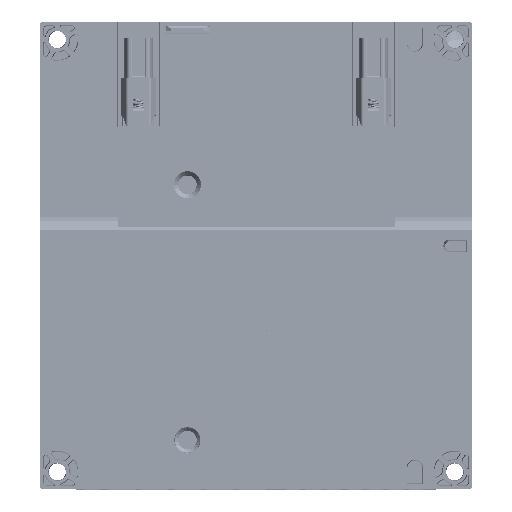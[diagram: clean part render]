
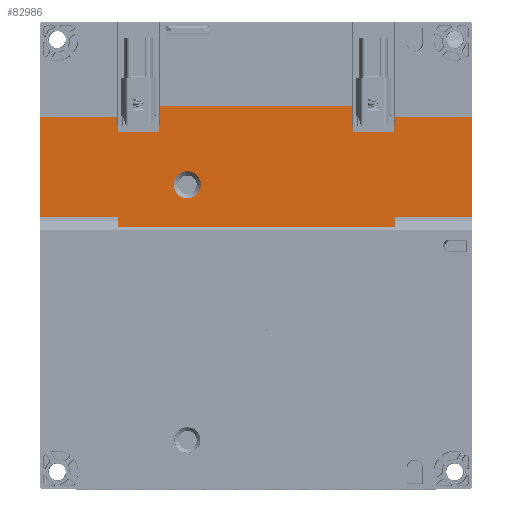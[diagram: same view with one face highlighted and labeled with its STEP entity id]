
A CAD part, top view. The second image highlights one B-rep face of the part: STEP entity #82986.
In plain terms, the highlighted planar face has unit normal (0, 0, 1).
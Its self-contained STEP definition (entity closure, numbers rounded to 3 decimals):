
#9819=CARTESIAN_POINT('',(-21.5,22.25,105.9));
#9820=DIRECTION('',(0.,0.,-1.));
#9821=DIRECTION('',(1.,0.,0.));
#9822=AXIS2_PLACEMENT_3D('',#9819,#9820,#9821);
#9827=CARTESIAN_POINT('',(-21.5,22.25,105.9));
#9828=DIRECTION('',(0.,0.,-1.));
#9829=DIRECTION('',(-1.,0.,0.));
#9830=AXIS2_PLACEMENT_3D('',#9827,#9828,#9829);
#9835=DIRECTION('',(1.,0.,0.));
#9836=VECTOR('',#9835,24.336);
#9837=CARTESIAN_POINT('',(-67.75,46.65,105.9));
#9838=LINE('',#9837,#9836);
#9842=DIRECTION('',(0.001,-1.,0.));
#9843=VECTOR('',#9842,5.9);
#9844=CARTESIAN_POINT('',(-43.414,46.65,105.9));
#9845=LINE('',#9844,#9843);
#9849=CARTESIAN_POINT('',(-43.407,40.75,105.9));
#9850=CARTESIAN_POINT('',(-43.407,40.083,105.9));
#9851=CARTESIAN_POINT('',(-43.4,39.417,105.9));
#9852=CARTESIAN_POINT('',(-43.4,38.75,105.9));
#9857=DIRECTION('',(1.,0.,0.));
#9858=VECTOR('',#9857,13.15);
#9859=CARTESIAN_POINT('',(-43.4,38.75,105.9));
#9860=LINE('',#9859,#9858);
#9864=CARTESIAN_POINT('',(-30.25,38.75,105.9));
#9865=CARTESIAN_POINT('',(-30.25,39.417,105.9));
#9866=CARTESIAN_POINT('',(-30.243,40.083,105.9));
#9867=CARTESIAN_POINT('',(-30.243,40.75,105.9));
#9872=DIRECTION('',(-0.001,-1.,0.));
#9873=VECTOR('',#9872,6.22);
#9874=CARTESIAN_POINT('',(-30.236,46.97,105.9));
#9875=LINE('',#9874,#9873);
#9879=DIRECTION('',(1.,0.,0.));
#9880=VECTOR('',#9879,60.472);
#9881=CARTESIAN_POINT('',(-30.236,46.97,105.9));
#9882=LINE('',#9881,#9880);
#9886=DIRECTION('',(0.001,-1.,0.));
#9887=VECTOR('',#9886,6.22);
#9888=CARTESIAN_POINT('',(30.236,46.97,105.9));
#9889=LINE('',#9888,#9887);
#9893=CARTESIAN_POINT('',(30.243,40.75,105.9));
#9894=CARTESIAN_POINT('',(30.243,40.083,105.9));
#9895=CARTESIAN_POINT('',(30.25,39.417,105.9));
#9896=CARTESIAN_POINT('',(30.25,38.75,105.9));
#9901=DIRECTION('',(1.,0.,0.));
#9902=VECTOR('',#9901,13.15);
#9903=CARTESIAN_POINT('',(30.25,38.75,105.9));
#9904=LINE('',#9903,#9902);
#9908=CARTESIAN_POINT('',(43.4,38.75,105.9));
#9909=CARTESIAN_POINT('',(43.4,39.417,105.9));
#9910=CARTESIAN_POINT('',(43.407,40.083,105.9));
#9911=CARTESIAN_POINT('',(43.407,40.75,105.9));
#9916=DIRECTION('',(-0.001,-1.,0.));
#9917=VECTOR('',#9916,5.9);
#9918=CARTESIAN_POINT('',(43.414,46.65,105.9));
#9919=LINE('',#9918,#9917);
#9923=DIRECTION('',(1.,0.,0.));
#9924=VECTOR('',#9923,24.336);
#9925=CARTESIAN_POINT('',(43.414,46.65,105.9));
#9926=LINE('',#9925,#9924);
#9930=DIRECTION('',(-1.,0.,0.));
#9931=VECTOR('',#9930,24.336);
#9932=CARTESIAN_POINT('',(67.75,12.15,105.9));
#9933=LINE('',#9932,#9931);
#9937=DIRECTION('',(0.,1.,0.));
#9938=VECTOR('',#9937,3.);
#9939=CARTESIAN_POINT('',(43.414,9.15,105.9));
#9940=LINE('',#9939,#9938);
#9944=DIRECTION('',(0.,1.,0.));
#9945=VECTOR('',#9944,3.);
#9946=CARTESIAN_POINT('',(-43.4,9.15,105.9));
#9947=LINE('',#9946,#9945);
#9951=DIRECTION('',(1.,0.,0.));
#9952=VECTOR('',#9951,24.35);
#9953=CARTESIAN_POINT('',(-67.75,12.15,105.9));
#9954=LINE('',#9953,#9952);
#13714=DIRECTION('',(0.,-1.,0.));
#13715=VECTOR('',#13714,34.5);
#13716=CARTESIAN_POINT('',(-67.75,46.65,105.9));
#13717=LINE('',#13716,#13715);
#19878=DIRECTION('',(0.,-1.,0.));
#19879=VECTOR('',#19878,34.5);
#19880=CARTESIAN_POINT('',(67.75,46.65,105.9));
#19881=LINE('',#19880,#19879);
#39808=DIRECTION('',(1.,0.,0.));
#39809=VECTOR('',#39808,86.814);
#39810=CARTESIAN_POINT('',(-43.4,9.15,105.9));
#39811=LINE('',#39810,#39809);
#64209=CARTESIAN_POINT('',(-17.25,22.25,105.9));
#64210=CARTESIAN_POINT('',(-25.75,22.25,105.9));
#64211=VERTEX_POINT('',#64209);
#64212=VERTEX_POINT('',#64210);
#64233=CARTESIAN_POINT('',(-67.75,12.15,105.9));
#64234=CARTESIAN_POINT('',(-43.4,12.15,105.9));
#64235=VERTEX_POINT('',#64233);
#64236=VERTEX_POINT('',#64234);
#64241=CARTESIAN_POINT('',(67.75,12.15,105.9));
#64242=VERTEX_POINT('',#64241);
#64275=CARTESIAN_POINT('',(30.25,38.75,105.9));
#64276=CARTESIAN_POINT('',(43.4,38.75,105.9));
#64277=VERTEX_POINT('',#64275);
#64278=VERTEX_POINT('',#64276);
#64279=CARTESIAN_POINT('',(-43.4,38.75,105.9));
#64280=CARTESIAN_POINT('',(-30.25,38.75,105.9));
#64281=VERTEX_POINT('',#64279);
#64282=VERTEX_POINT('',#64280);
#70820=CARTESIAN_POINT('',(-67.75,46.65,105.9));
#70821=VERTEX_POINT('',#70820);
#70826=CARTESIAN_POINT('',(67.75,46.65,105.9));
#70827=VERTEX_POINT('',#70826);
#70862=CARTESIAN_POINT('',(43.414,12.15,105.9));
#70863=VERTEX_POINT('',#70862);
#70890=VERTEX_POINT('',#9893);
#70891=VERTEX_POINT('',#9911);
#70892=VERTEX_POINT('',#9849);
#70893=VERTEX_POINT('',#9867);
#70902=CARTESIAN_POINT('',(-43.414,46.65,105.9));
#70903=VERTEX_POINT('',#70902);
#70906=CARTESIAN_POINT('',(43.414,46.65,105.9));
#70907=VERTEX_POINT('',#70906);
#70942=CARTESIAN_POINT('',(-30.236,46.97,105.9));
#70943=CARTESIAN_POINT('',(30.236,46.97,105.9));
#70944=VERTEX_POINT('',#70942);
#70945=VERTEX_POINT('',#70943);
#71230=CARTESIAN_POINT('',(-43.4,9.15,105.9));
#71231=VERTEX_POINT('',#71230);
#71234=CARTESIAN_POINT('',(43.414,9.15,105.9));
#71235=VERTEX_POINT('',#71234);
#82934=CARTESIAN_POINT('',(0.,0.,105.9));
#82935=DIRECTION('',(0.,0.,1.));
#82936=DIRECTION('',(1.,0.,0.));
#82937=AXIS2_PLACEMENT_3D('',#82934,#82935,#82936);
#82938=PLANE('',#82937);
#82940=ORIENTED_EDGE('',*,*,#82939,.T.);
#82942=ORIENTED_EDGE('',*,*,#82941,.T.);
#82944=ORIENTED_EDGE('',*,*,#82943,.T.);
#82946=ORIENTED_EDGE('',*,*,#82945,.T.);
#82948=ORIENTED_EDGE('',*,*,#82947,.T.);
#82950=ORIENTED_EDGE('',*,*,#82949,.F.);
#82952=ORIENTED_EDGE('',*,*,#82951,.T.);
#82954=ORIENTED_EDGE('',*,*,#82953,.T.);
#82956=ORIENTED_EDGE('',*,*,#82955,.T.);
#82958=ORIENTED_EDGE('',*,*,#82957,.T.);
#82960=ORIENTED_EDGE('',*,*,#82959,.T.);
#82962=ORIENTED_EDGE('',*,*,#82961,.F.);
#82964=ORIENTED_EDGE('',*,*,#82963,.T.);
#82966=ORIENTED_EDGE('',*,*,#82965,.T.);
#82968=ORIENTED_EDGE('',*,*,#82967,.T.);
#82970=ORIENTED_EDGE('',*,*,#82969,.F.);
#82972=ORIENTED_EDGE('',*,*,#82971,.F.);
#82974=ORIENTED_EDGE('',*,*,#82973,.T.);
#82976=ORIENTED_EDGE('',*,*,#82975,.F.);
#82978=ORIENTED_EDGE('',*,*,#82977,.F.);
#82979=EDGE_LOOP('',(#82940,#82942,#82944,#82946,#82948,#82950,#82952,#82954,
#82956,#82958,#82960,#82962,#82964,#82966,#82968,#82970,#82972,#82974,#82976,
#82978));
#82980=FACE_OUTER_BOUND('',#82979,.F.);
#82981=ORIENTED_EDGE('',*,*,#82890,.F.);
#82983=ORIENTED_EDGE('',*,*,#82982,.F.);
#82984=EDGE_LOOP('',(#82981,#82983));
#82985=FACE_BOUND('',#82984,.F.);
#82986=ADVANCED_FACE('',(#82980,#82985),#82938,.T.);
#9823=CIRCLE('',#9822,4.25);
#9831=CIRCLE('',#9830,4.25);
#9853=B_SPLINE_CURVE_WITH_KNOTS('',3,(#9849,#9850,#9851,#9852),.UNSPECIFIED.,
.F.,.F.,(4,4),(0.,1.),.UNSPECIFIED.);
#9868=B_SPLINE_CURVE_WITH_KNOTS('',3,(#9864,#9865,#9866,#9867),.UNSPECIFIED.,
.F.,.F.,(4,4),(0.,1.),.UNSPECIFIED.);
#9897=B_SPLINE_CURVE_WITH_KNOTS('',3,(#9893,#9894,#9895,#9896),.UNSPECIFIED.,
.F.,.F.,(4,4),(0.,1.),.UNSPECIFIED.);
#9912=B_SPLINE_CURVE_WITH_KNOTS('',3,(#9908,#9909,#9910,#9911),.UNSPECIFIED.,
.F.,.F.,(4,4),(0.,1.),.UNSPECIFIED.);
#82890=EDGE_CURVE('',#64211,#64212,#9823,.T.);
#82939=EDGE_CURVE('',#70821,#70903,#9838,.T.);
#82941=EDGE_CURVE('',#70903,#70892,#9845,.T.);
#82943=EDGE_CURVE('',#70892,#64281,#9853,.T.);
#82945=EDGE_CURVE('',#64281,#64282,#9860,.T.);
#82947=EDGE_CURVE('',#64282,#70893,#9868,.T.);
#82949=EDGE_CURVE('',#70944,#70893,#9875,.T.);
#82951=EDGE_CURVE('',#70944,#70945,#9882,.T.);
#82953=EDGE_CURVE('',#70945,#70890,#9889,.T.);
#82955=EDGE_CURVE('',#70890,#64277,#9897,.T.);
#82957=EDGE_CURVE('',#64277,#64278,#9904,.T.);
#82959=EDGE_CURVE('',#64278,#70891,#9912,.T.);
#82961=EDGE_CURVE('',#70907,#70891,#9919,.T.);
#82963=EDGE_CURVE('',#70907,#70827,#9926,.T.);
#82965=EDGE_CURVE('',#70827,#64242,#19881,.T.);
#82967=EDGE_CURVE('',#64242,#70863,#9933,.T.);
#82969=EDGE_CURVE('',#71235,#70863,#9940,.T.);
#82971=EDGE_CURVE('',#71231,#71235,#39811,.T.);
#82973=EDGE_CURVE('',#71231,#64236,#9947,.T.);
#82975=EDGE_CURVE('',#64235,#64236,#9954,.T.);
#82977=EDGE_CURVE('',#70821,#64235,#13717,.T.);
#82982=EDGE_CURVE('',#64212,#64211,#9831,.T.);
